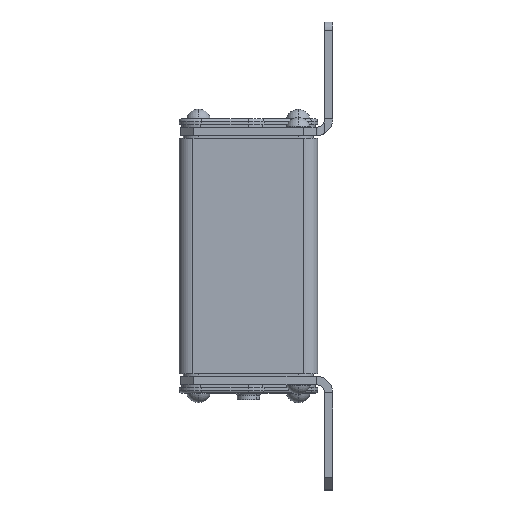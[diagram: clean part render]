
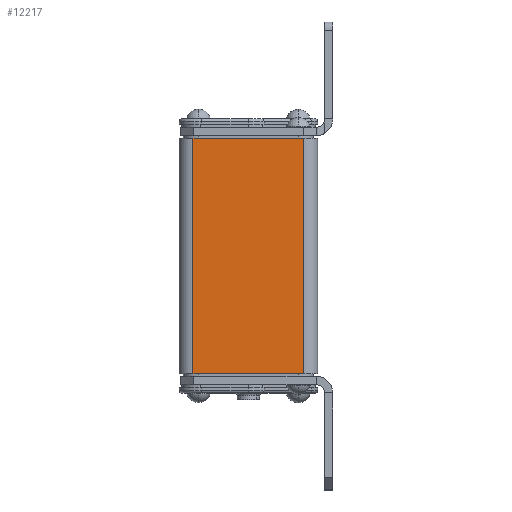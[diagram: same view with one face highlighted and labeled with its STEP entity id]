
A CAD part, top view. The second image highlights one B-rep face of the part: STEP entity #12217.
In plain terms, the highlighted planar face has unit normal (0, 0, 1).
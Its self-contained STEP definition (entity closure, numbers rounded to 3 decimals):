
#199 = LINE ( 'NONE', #13695, #7674 ) ;
#338 = ORIENTED_EDGE ( 'NONE', *, *, #3698, .F. ) ;
#536 = EDGE_CURVE ( 'NONE', #6933, #6873, #11618, .T. ) ;
#700 = VECTOR ( 'NONE', #10823, 1000. ) ;
#986 = VERTEX_POINT ( 'NONE', #8235 ) ;
#1072 = LINE ( 'NONE', #8142, #5735 ) ;
#1872 = DIRECTION ( 'NONE',  ( -1., 0., 0. ) ) ;
#2715 = PLANE ( 'NONE',  #9482 ) ;
#3698 = EDGE_CURVE ( 'NONE', #986, #15451, #16228, .T. ) ;
#3950 = ORIENTED_EDGE ( 'NONE', *, *, #536, .T. ) ;
#4266 = ORIENTED_EDGE ( 'NONE', *, *, #12639, .T. ) ;
#4304 = VECTOR ( 'NONE', #4620, 1000. ) ;
#4620 = DIRECTION ( 'NONE',  ( 0., 1., 0. ) ) ;
#5343 = CARTESIAN_POINT ( 'NONE',  ( 20., 42.5, 25. ) ) ;
#5678 = DIRECTION ( 'NONE',  ( 0., 0., -1. ) ) ;
#5735 = VECTOR ( 'NONE', #9328, 1000. ) ;
#6873 = VERTEX_POINT ( 'NONE', #5343 ) ;
#6933 = VERTEX_POINT ( 'NONE', #10698 ) ;
#7674 = VECTOR ( 'NONE', #1872, 1000. ) ;
#8142 = CARTESIAN_POINT ( 'NONE',  ( 20., 42.5, 25. ) ) ;
#8179 = EDGE_CURVE ( 'NONE', #6933, #986, #199, .T. ) ;
#8235 = CARTESIAN_POINT ( 'NONE',  ( -20., -42.5, 25. ) ) ;
#8361 = CARTESIAN_POINT ( 'NONE',  ( -20., 42.5, 25. ) ) ;
#8668 = CARTESIAN_POINT ( 'NONE',  ( -20., -42.5, 25. ) ) ;
#9328 = DIRECTION ( 'NONE',  ( -1., 0., 0. ) ) ;
#9482 = AXIS2_PLACEMENT_3D ( 'NONE', #13242, #5678, #16002 ) ;
#10698 = CARTESIAN_POINT ( 'NONE',  ( 20., -42.5, 25. ) ) ;
#10823 = DIRECTION ( 'NONE',  ( 0., 1., 0. ) ) ;
#11618 = LINE ( 'NONE', #13360, #700 ) ;
#11709 = FACE_OUTER_BOUND ( 'NONE', #13445, .T. ) ;
#11846 = ORIENTED_EDGE ( 'NONE', *, *, #8179, .F. ) ;
#12217 = ADVANCED_FACE ( 'NONE', ( #11709 ), #2715, .F. ) ;
#12639 = EDGE_CURVE ( 'NONE', #6873, #15451, #1072, .T. ) ;
#13242 = CARTESIAN_POINT ( 'NONE',  ( 20., -42.5, 25. ) ) ;
#13360 = CARTESIAN_POINT ( 'NONE',  ( 20., -42.5, 25. ) ) ;
#13445 = EDGE_LOOP ( 'NONE', ( #4266, #338, #11846, #3950 ) ) ;
#13695 = CARTESIAN_POINT ( 'NONE',  ( 20., -42.5, 25. ) ) ;
#15451 = VERTEX_POINT ( 'NONE', #8361 ) ;
#16002 = DIRECTION ( 'NONE',  ( 1., 0., 0. ) ) ;
#16228 = LINE ( 'NONE', #8668, #4304 ) ;
